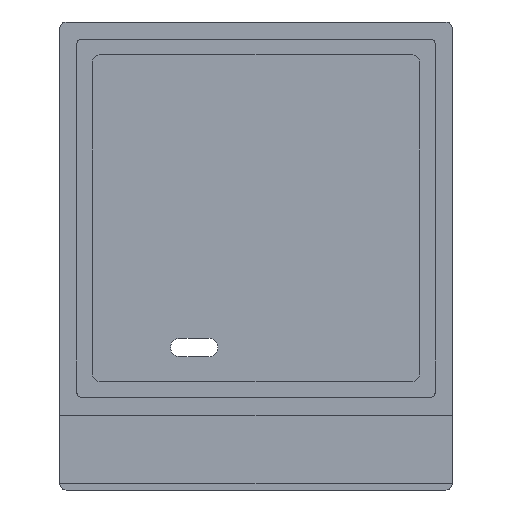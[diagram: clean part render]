
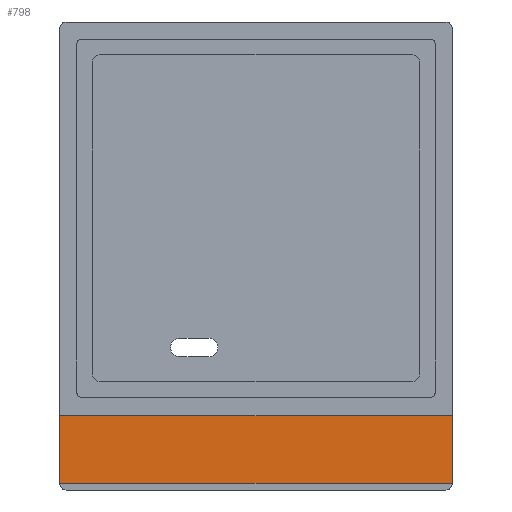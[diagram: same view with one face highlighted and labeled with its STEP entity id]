
A CAD part, left-side view. The second image highlights one B-rep face of the part: STEP entity #798.
In plain terms, the highlighted planar face has unit normal (-1, 0, 0).
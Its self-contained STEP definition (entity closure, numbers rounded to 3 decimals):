
#32 = PLANE('',#33);
#33 = AXIS2_PLACEMENT_3D('',#34,#35,#36);
#34 = CARTESIAN_POINT('',(65.,-38.1,0.));
#35 = DIRECTION('',(0.,1.,0.));
#36 = DIRECTION('',(0.,0.,1.));
#113 = VERTEX_POINT('',#114);
#114 = CARTESIAN_POINT('',(66.2,-38.1,1.3));
#127 = PLANE('',#128);
#128 = AXIS2_PLACEMENT_3D('',#129,#130,#131);
#129 = CARTESIAN_POINT('',(65.,-39.1,1.3));
#130 = DIRECTION('',(0.,0.,1.));
#131 = DIRECTION('',(1.,0.,0.));
#138 = EDGE_CURVE('',#139,#113,#141,.T.);
#139 = VERTEX_POINT('',#140);
#140 = CARTESIAN_POINT('',(66.2,-38.1,14.4));
#141 = SURFACE_CURVE('',#142,(#146,#152),.PCURVE_S1.);
#142 = LINE('',#143,#144);
#143 = CARTESIAN_POINT('',(66.2,-38.1,0.65));
#144 = VECTOR('',#145,1.);
#145 = DIRECTION('',(0.,0.,-1.));
#146 = PCURVE('',#32,#147);
#147 = DEFINITIONAL_REPRESENTATION('',(#148),#151);
#148 = B_SPLINE_CURVE_WITH_KNOTS('',1,(#149,#150),.UNSPECIFIED.,.F.,.F.,
  (2,2),(-13.75,-0.65),.PIECEWISE_BEZIER_KNOTS.);
#149 = CARTESIAN_POINT('',(14.4,1.2));
#150 = CARTESIAN_POINT('',(1.3,1.2));
#151 = ( GEOMETRIC_REPRESENTATION_CONTEXT(2) 
PARAMETRIC_REPRESENTATION_CONTEXT() REPRESENTATION_CONTEXT('2D SPACE',''
  ) );
#152 = PCURVE('',#153,#158);
#153 = PLANE('',#154);
#154 = AXIS2_PLACEMENT_3D('',#155,#156,#157);
#155 = CARTESIAN_POINT('',(66.2,-39.1,1.3));
#156 = DIRECTION('',(1.,0.,0.));
#157 = DIRECTION('',(0.,0.,1.));
#158 = DEFINITIONAL_REPRESENTATION('',(#159),#162);
#159 = B_SPLINE_CURVE_WITH_KNOTS('',1,(#160,#161),.UNSPECIFIED.,.F.,.F.,
  (2,2),(-13.75,-0.65),.PIECEWISE_BEZIER_KNOTS.);
#160 = CARTESIAN_POINT('',(13.1,-1.));
#161 = CARTESIAN_POINT('',(0.,-1.));
#162 = ( GEOMETRIC_REPRESENTATION_CONTEXT(2) 
PARAMETRIC_REPRESENTATION_CONTEXT() REPRESENTATION_CONTEXT('2D SPACE',''
  ) );
#179 = PLANE('',#180);
#180 = AXIS2_PLACEMENT_3D('',#181,#182,#183);
#181 = CARTESIAN_POINT('',(65.,-39.1,14.4));
#182 = DIRECTION('',(0.,0.,1.));
#183 = DIRECTION('',(1.,0.,0.));
#451 = PLANE('',#452);
#452 = AXIS2_PLACEMENT_3D('',#453,#454,#455);
#453 = CARTESIAN_POINT('',(65.,38.1,0.));
#454 = DIRECTION('',(0.,1.,0.));
#455 = DIRECTION('',(0.,0.,1.));
#757 = EDGE_CURVE('',#139,#758,#760,.T.);
#758 = VERTEX_POINT('',#759);
#759 = CARTESIAN_POINT('',(66.2,38.1,14.4));
#760 = SURFACE_CURVE('',#761,(#765,#772),.PCURVE_S1.);
#761 = LINE('',#762,#763);
#762 = CARTESIAN_POINT('',(66.2,-39.1,14.4));
#763 = VECTOR('',#764,1.);
#764 = DIRECTION('',(0.,1.,0.));
#765 = PCURVE('',#179,#766);
#766 = DEFINITIONAL_REPRESENTATION('',(#767),#771);
#767 = LINE('',#768,#769);
#768 = CARTESIAN_POINT('',(1.2,0.));
#769 = VECTOR('',#770,1.);
#770 = DIRECTION('',(0.,1.));
#771 = ( GEOMETRIC_REPRESENTATION_CONTEXT(2) 
PARAMETRIC_REPRESENTATION_CONTEXT() REPRESENTATION_CONTEXT('2D SPACE',''
  ) );
#772 = PCURVE('',#153,#773);
#773 = DEFINITIONAL_REPRESENTATION('',(#774),#778);
#774 = LINE('',#775,#776);
#775 = CARTESIAN_POINT('',(13.1,0.));
#776 = VECTOR('',#777,1.);
#777 = DIRECTION('',(0.,-1.));
#778 = ( GEOMETRIC_REPRESENTATION_CONTEXT(2) 
PARAMETRIC_REPRESENTATION_CONTEXT() REPRESENTATION_CONTEXT('2D SPACE',''
  ) );
#798 = ADVANCED_FACE('',(#799),#153,.F.);
#799 = FACE_BOUND('',#800,.F.);
#800 = EDGE_LOOP('',(#801,#802,#803,#826));
#801 = ORIENTED_EDGE('',*,*,#757,.F.);
#802 = ORIENTED_EDGE('',*,*,#138,.T.);
#803 = ORIENTED_EDGE('',*,*,#804,.T.);
#804 = EDGE_CURVE('',#113,#805,#807,.T.);
#805 = VERTEX_POINT('',#806);
#806 = CARTESIAN_POINT('',(66.2,38.1,1.3));
#807 = SURFACE_CURVE('',#808,(#812,#819),.PCURVE_S1.);
#808 = LINE('',#809,#810);
#809 = CARTESIAN_POINT('',(66.2,-39.1,1.3));
#810 = VECTOR('',#811,1.);
#811 = DIRECTION('',(0.,1.,0.));
#812 = PCURVE('',#153,#813);
#813 = DEFINITIONAL_REPRESENTATION('',(#814),#818);
#814 = LINE('',#815,#816);
#815 = CARTESIAN_POINT('',(0.,0.));
#816 = VECTOR('',#817,1.);
#817 = DIRECTION('',(0.,-1.));
#818 = ( GEOMETRIC_REPRESENTATION_CONTEXT(2) 
PARAMETRIC_REPRESENTATION_CONTEXT() REPRESENTATION_CONTEXT('2D SPACE',''
  ) );
#819 = PCURVE('',#127,#820);
#820 = DEFINITIONAL_REPRESENTATION('',(#821),#825);
#821 = LINE('',#822,#823);
#822 = CARTESIAN_POINT('',(1.2,0.));
#823 = VECTOR('',#824,1.);
#824 = DIRECTION('',(0.,1.));
#825 = ( GEOMETRIC_REPRESENTATION_CONTEXT(2) 
PARAMETRIC_REPRESENTATION_CONTEXT() REPRESENTATION_CONTEXT('2D SPACE',''
  ) );
#826 = ORIENTED_EDGE('',*,*,#827,.F.);
#827 = EDGE_CURVE('',#758,#805,#828,.T.);
#828 = SURFACE_CURVE('',#829,(#833,#839),.PCURVE_S1.);
#829 = LINE('',#830,#831);
#830 = CARTESIAN_POINT('',(66.2,38.1,0.65));
#831 = VECTOR('',#832,1.);
#832 = DIRECTION('',(0.,0.,-1.));
#833 = PCURVE('',#153,#834);
#834 = DEFINITIONAL_REPRESENTATION('',(#835),#838);
#835 = B_SPLINE_CURVE_WITH_KNOTS('',1,(#836,#837),.UNSPECIFIED.,.F.,.F.,
  (2,2),(-13.75,-0.65),.PIECEWISE_BEZIER_KNOTS.);
#836 = CARTESIAN_POINT('',(13.1,-77.2));
#837 = CARTESIAN_POINT('',(0.,-77.2));
#838 = ( GEOMETRIC_REPRESENTATION_CONTEXT(2) 
PARAMETRIC_REPRESENTATION_CONTEXT() REPRESENTATION_CONTEXT('2D SPACE',''
  ) );
#839 = PCURVE('',#451,#840);
#840 = DEFINITIONAL_REPRESENTATION('',(#841),#844);
#841 = B_SPLINE_CURVE_WITH_KNOTS('',1,(#842,#843),.UNSPECIFIED.,.F.,.F.,
  (2,2),(-13.75,-0.65),.PIECEWISE_BEZIER_KNOTS.);
#842 = CARTESIAN_POINT('',(14.4,1.2));
#843 = CARTESIAN_POINT('',(1.3,1.2));
#844 = ( GEOMETRIC_REPRESENTATION_CONTEXT(2) 
PARAMETRIC_REPRESENTATION_CONTEXT() REPRESENTATION_CONTEXT('2D SPACE',''
  ) );
